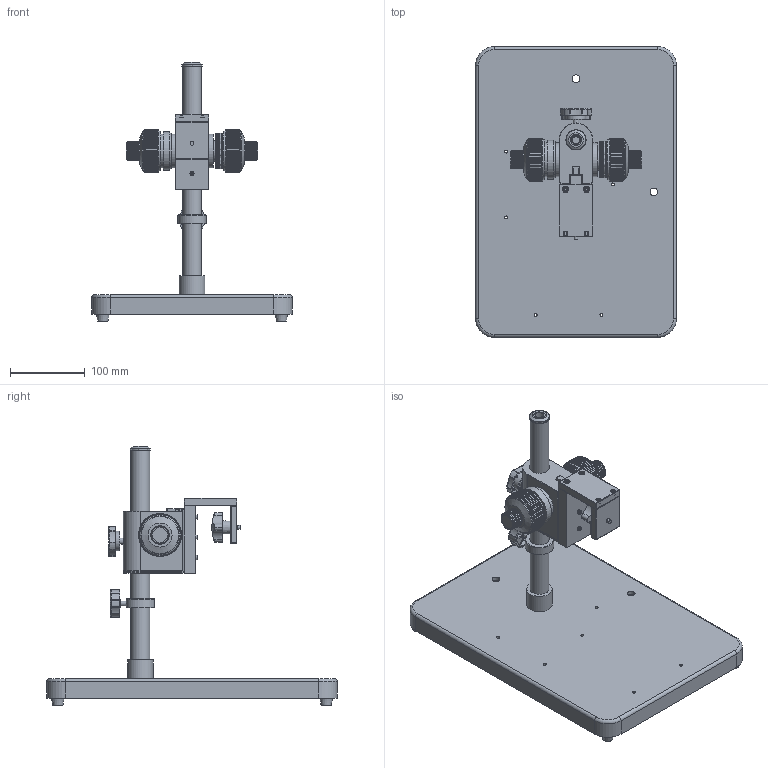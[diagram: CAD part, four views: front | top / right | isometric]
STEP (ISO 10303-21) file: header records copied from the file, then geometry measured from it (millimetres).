
FILE_DESCRIPTION(('STEP AP214'),'1');
FILE_NAME('GRS-K.stp','2024-09-20T05:27:24',(' '),(' '),'Spatial InterOp 3D',' ',' ');
FILE_SCHEMA(('AUTOMOTIVE_DESIGN { 1 0 10303 214 1 1 1 1 }'));
Length unit declared in the file: metre
Products named in the file (5): GRS-K; Component1; Component2; Component3; Component4
Assembly tree (4 placements, depth 2):
  GRS-K
    Component1
    Component2
    Component3
    Component4
Bounding box: 268 x 388 x 345.9 mm (x, y, z)
Volume: 1201111.5 mm3; surface area: 454213.7 mm2
Topology: 6 solids, 17 shells, 2517 faces, 6619 edges, 4215 vertices
Faces by surface type: plane 1201, cylinder 853, torus 311, bspline 93, cone 55, sphere 4
Full cylindrical faces by diameter (mm): 2 x4, 2.4 x4, 2.5 x5, 3.4 x3, 4 x10, 4.25 x1, 5.1 x2, 5.6 x5, 6 x1, 6.4 x2, 6.5 x4, 6.9 x2, 7.3 x4, 8 x2, 8.5 x2, 9.8 x1, 10 x3, 10.5 x3, 11.7 x2, 12.8 x1, 15 x1, 15.2 x1, 17.4 x1, 18 x1, 20 x2, 21 x3, 22 x1, 22.5 x2, 24.5 x2, 25 x2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
Entity records: 166475 total; most frequent: CARTESIAN_POINT 53375, DIRECTION 12820, ORIENTED_EDGE 12726, STYLED_ITEM 8886, PRESENTATION_STYLE_ASSIGNMENT 8886, COLOUR_RGB 8886, EDGE_CURVE 6363, CURVE_STYLE 6363
